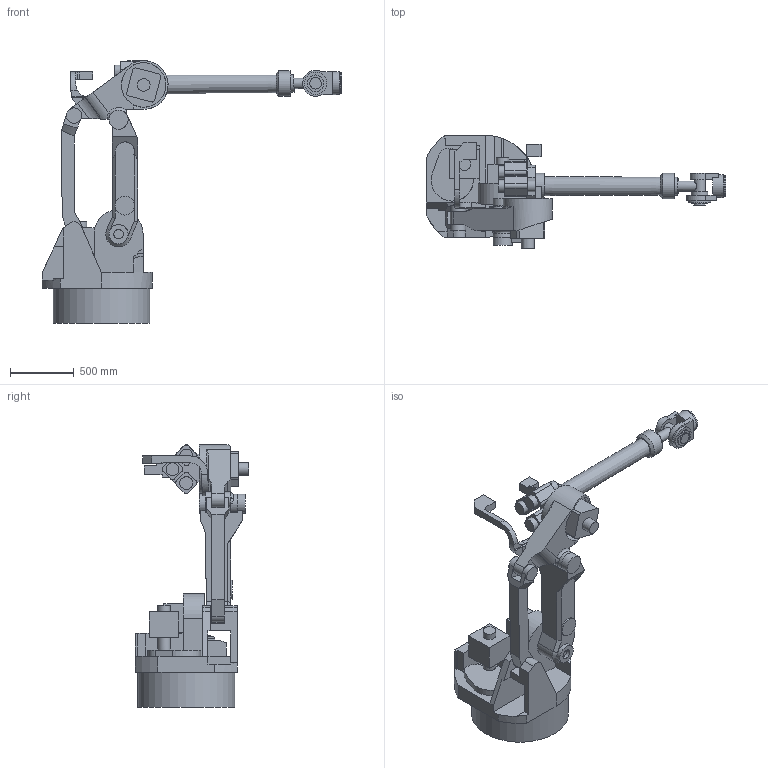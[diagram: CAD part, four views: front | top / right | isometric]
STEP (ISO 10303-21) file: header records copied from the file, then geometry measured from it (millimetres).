
FILE_DESCRIPTION(/* description */ ('','CAx-IF Rec.Pracs.---Representation and Presentation of Product Manufacturing Information (PMI)---4.0---2014-10-13'),/* implementation_level */ '2;1');
FILE_NAME(/* name */ 'Kawasaki_UX150.step',/* time_stamp */ '2025-01-06T16:58:06+01:00',/* author */ (''),/* organization */ (''),/* preprocessor_version */ 'ST-DEVELOPER v20',/* originating_system */ 'Autodesk Translation Framework v13.20.0.188',/* authorisation */ '');
FILE_SCHEMA (('AP242_MANAGED_MODEL_BASED_3D_ENGINEERING_MIM_LF { 1 0 10303 442 1 1 4 }'));
Length unit declared in the file: millimetre
Products named in the file (11): UX150; Rotule; Socle; Lien1; Lien2; Support bras; Bras; Protection cables; Nuque; Tête; Pivot
Assembly tree (10 placements, depth 2):
  UX150
    Rotule
    Socle
    Lien1
    Lien2
    Support bras
    Bras
    Protection cables
    Nuque
    Tête
    Pivot
Bounding box: 2353.08 x 890 x 2062.96 mm (x, y, z)
Volume: 419281260.8 mm3; surface area: 9709885.7 mm2
Topology: 11 solids, 11 shells, 327 faces, 807 edges, 521 vertices
Faces by surface type: plane 232, cylinder 84, cone 4, bspline 4, torus 3
Full cylindrical faces by diameter (mm): 20 x2, 75 x1, 80 x1, 90 x3, 100 x7, 120 x2, 130 x2, 140 x1, 150 x7, 170 x1, 175 x1, 180 x1, 200 x2, 335 x1, 350 x1, 382 x1, 760 x1
Entity records: 10186 total; most frequent: CARTESIAN_POINT 1946, DIRECTION 1697, ORIENTED_EDGE 1614, EDGE_CURVE 807, LINE 575, VECTOR 575, AXIS2_PLACEMENT_3D 561, VERTEX_POINT 521
